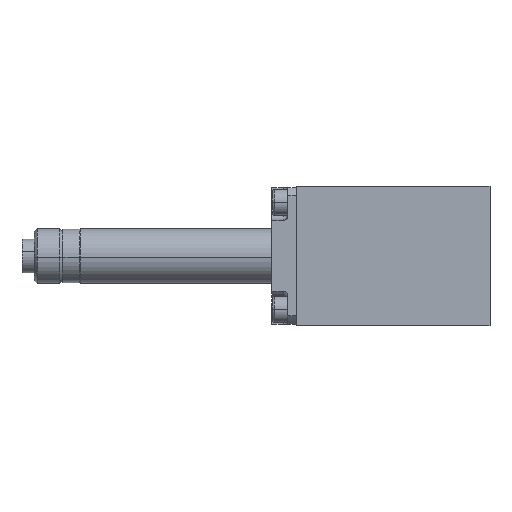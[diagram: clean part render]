
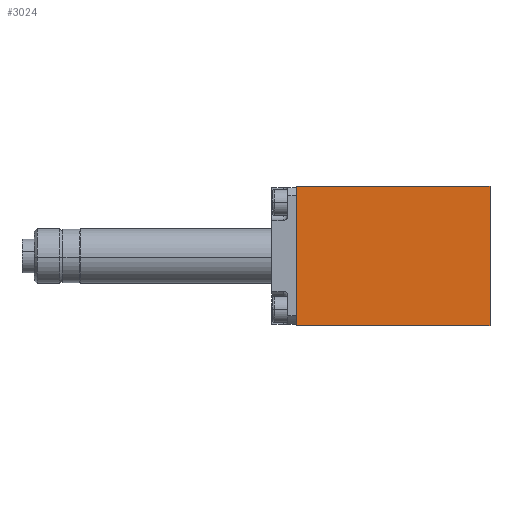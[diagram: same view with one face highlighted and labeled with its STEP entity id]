
A CAD part, top view. The second image highlights one B-rep face of the part: STEP entity #3024.
In plain terms, the highlighted planar face has unit normal (0, 0, 1).
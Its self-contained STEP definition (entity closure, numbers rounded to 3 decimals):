
#3024 = ADVANCED_FACE ( 'NONE', ( #30595 ), #13927, .F. ) ;
#3105 = EDGE_CURVE ( 'NONE', #4070, #28132, #10824, .T. ) ;
#3664 = ORIENTED_EDGE ( 'NONE', *, *, #9564, .T. ) ;
#4070 = VERTEX_POINT ( 'NONE', #28880 ) ;
#5417 = VECTOR ( 'NONE', #32312, 1000. ) ;
#5986 = CARTESIAN_POINT ( 'NONE',  ( 64., -23., 23. ) ) ;
#6502 = VERTEX_POINT ( 'NONE', #16574 ) ;
#8062 = CARTESIAN_POINT ( 'NONE',  ( 64., -23., 23. ) ) ;
#8643 = DIRECTION ( 'NONE',  ( -1., 0., 0. ) ) ;
#8869 = AXIS2_PLACEMENT_3D ( 'NONE', #12737, #30022, #12654 ) ;
#8879 = DIRECTION ( 'NONE',  ( 0., -1., 0. ) ) ;
#9220 = EDGE_LOOP ( 'NONE', ( #3664, #11892, #27154, #14447 ) ) ;
#9270 = EDGE_CURVE ( 'NONE', #4070, #24490, #30639, .T. ) ;
#9386 = CARTESIAN_POINT ( 'NONE',  ( 64., -23., 23. ) ) ;
#9564 = EDGE_CURVE ( 'NONE', #24490, #6502, #12446, .T. ) ;
#10824 = LINE ( 'NONE', #8062, #16792 ) ;
#11892 = ORIENTED_EDGE ( 'NONE', *, *, #28547, .F. ) ;
#12446 = LINE ( 'NONE', #17221, #5417 ) ;
#12654 = DIRECTION ( 'NONE',  ( -1., 0., 0. ) ) ;
#12737 = CARTESIAN_POINT ( 'NONE',  ( 64., -23., 23. ) ) ;
#13927 = PLANE ( 'NONE',  #8869 ) ;
#14447 = ORIENTED_EDGE ( 'NONE', *, *, #9270, .T. ) ;
#16495 = LINE ( 'NONE', #5986, #29045 ) ;
#16574 = CARTESIAN_POINT ( 'NONE',  ( 0., -23., 23. ) ) ;
#16792 = VECTOR ( 'NONE', #8879, 1000. ) ;
#17221 = CARTESIAN_POINT ( 'NONE',  ( 0., -23., 23. ) ) ;
#17764 = CARTESIAN_POINT ( 'NONE',  ( 64., 23., 23. ) ) ;
#22787 = CARTESIAN_POINT ( 'NONE',  ( 0., 23., 23. ) ) ;
#24490 = VERTEX_POINT ( 'NONE', #22787 ) ;
#25288 = DIRECTION ( 'NONE',  ( -1., 0., 0. ) ) ;
#26626 = VECTOR ( 'NONE', #25288, 1000. ) ;
#27154 = ORIENTED_EDGE ( 'NONE', *, *, #3105, .F. ) ;
#28132 = VERTEX_POINT ( 'NONE', #9386 ) ;
#28547 = EDGE_CURVE ( 'NONE', #28132, #6502, #16495, .T. ) ;
#28880 = CARTESIAN_POINT ( 'NONE',  ( 64., 23., 23. ) ) ;
#29045 = VECTOR ( 'NONE', #8643, 1000. ) ;
#30022 = DIRECTION ( 'NONE',  ( 0., 0., -1. ) ) ;
#30595 = FACE_OUTER_BOUND ( 'NONE', #9220, .T. ) ;
#30639 = LINE ( 'NONE', #17764, #26626 ) ;
#32312 = DIRECTION ( 'NONE',  ( 0., -1., 0. ) ) ;
